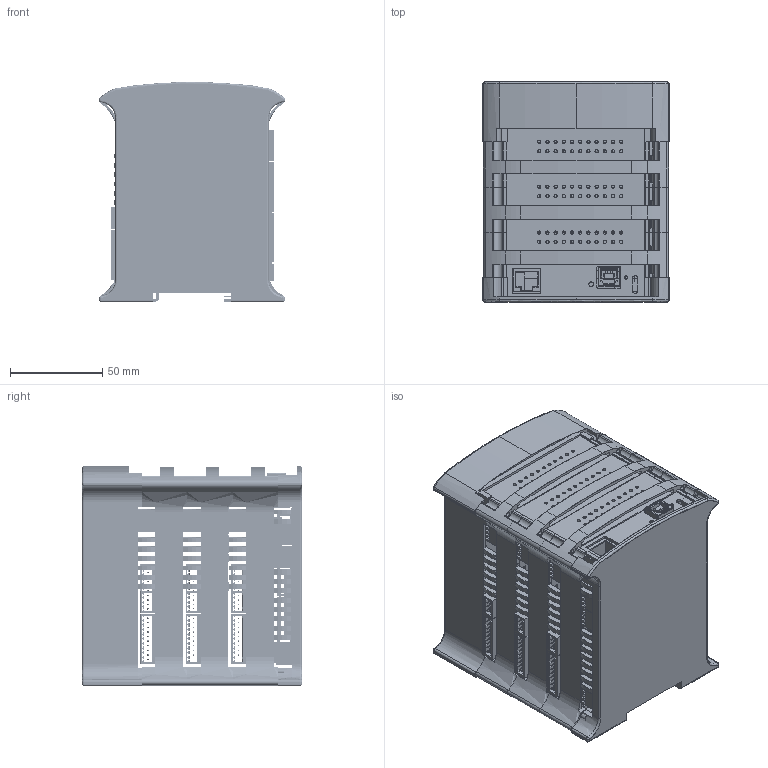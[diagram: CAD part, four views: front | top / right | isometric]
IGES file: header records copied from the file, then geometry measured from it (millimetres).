
Start section: SolidWorks IGES file using analytic representation for surfaces
Global section: file name: D:\Dropbox (Boot&Work_Corp_SL)\Equipo Tecnico\PROYECTOS\INDUSTRIAL SHIELDS\I+D\3D\3D conjuntos\equipos\M_duino base\58+\Mduino_58+.IGS; native system: SolidWorks 2016; preprocessor: SolidWorks 2016; author: albertis; date: 191106.145256; units: millimetre
Bounding box: 101 x 119.3 x 119.5 mm (x, y, z)
Surface area: 200735.9 mm2 (no closed solid volume)
Topology: 0 solids, 0 shells, 3083 faces, 37009 edges, 36955 vertices
Faces by surface type: bspline 2388, revolution 695
